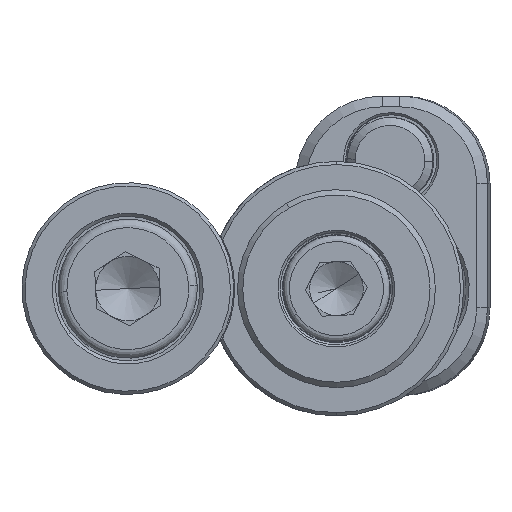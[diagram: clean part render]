
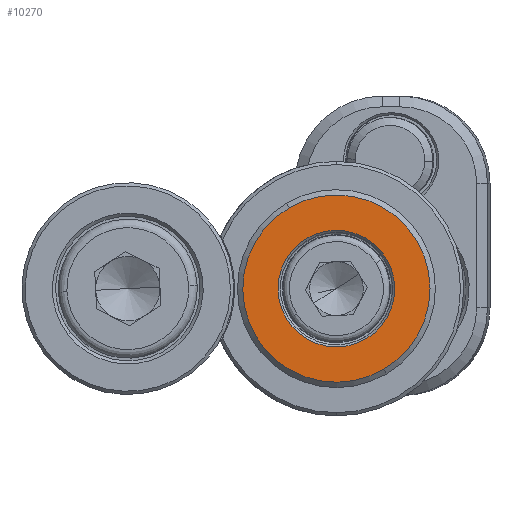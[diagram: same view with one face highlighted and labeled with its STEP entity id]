
A CAD part, front view. The second image highlights one B-rep face of the part: STEP entity #10270.
In plain terms, the highlighted planar face has unit normal (0, -1, 0).
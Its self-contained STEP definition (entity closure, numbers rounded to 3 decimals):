
#763 = DIRECTION ( 'NONE',  ( 0., 1., 0. ) ) ;
#1583 = ORIENTED_EDGE ( 'NONE', *, *, #4432, .T. ) ;
#1798 = DIRECTION ( 'NONE',  ( -0.505, 0., 0.863 ) ) ;
#1819 = VERTEX_POINT ( 'NONE', #10027 ) ;
#2292 = AXIS2_PLACEMENT_3D ( 'NONE', #9568, #4207, #4142 ) ;
#2552 = CARTESIAN_POINT ( 'NONE',  ( -4.42, -4., 7.552 ) ) ;
#2580 = FACE_OUTER_BOUND ( 'NONE', #10008, .T. ) ;
#3115 = VERTEX_POINT ( 'NONE', #10264 ) ;
#4142 = DIRECTION ( 'NONE',  ( -0.505, 0., 0.863 ) ) ;
#4207 = DIRECTION ( 'NONE',  ( 0., -1., 0. ) ) ;
#4432 = EDGE_CURVE ( 'NONE', #1819, #13284, #8508, .T. ) ;
#5392 = PLANE ( 'NONE',  #10678 ) ;
#5608 = EDGE_CURVE ( 'NONE', #13284, #1819, #9122, .T. ) ;
#5877 = FACE_BOUND ( 'NONE', #10084, .T. ) ;
#6247 = DIRECTION ( 'NONE',  ( -0.505, 0., 0.863 ) ) ;
#6370 = CIRCLE ( 'NONE', #11486, 5.45 ) ;
#6905 = CARTESIAN_POINT ( 'NONE',  ( -2.753, -4., 4.704 ) ) ;
#7456 = AXIS2_PLACEMENT_3D ( 'NONE', #13230, #9587, #6247 ) ;
#7545 = VERTEX_POINT ( 'NONE', #6905 ) ;
#7960 = DIRECTION ( 'NONE',  ( -0.505, 0., 0.863 ) ) ;
#8508 = CIRCLE ( 'NONE', #2292, 8.75 ) ;
#8618 = EDGE_CURVE ( 'NONE', #7545, #3115, #6370, .T. ) ;
#8756 = CARTESIAN_POINT ( 'NONE',  ( 0., -4., 0. ) ) ;
#9122 = CIRCLE ( 'NONE', #7456, 8.75 ) ;
#9262 = ORIENTED_EDGE ( 'NONE', *, *, #8618, .T. ) ;
#9568 = CARTESIAN_POINT ( 'NONE',  ( 0., -4., 0. ) ) ;
#9587 = DIRECTION ( 'NONE',  ( 0., -1., 0. ) ) ;
#9853 = CARTESIAN_POINT ( 'NONE',  ( -4.531, -4., -2.652 ) ) ;
#10008 = EDGE_LOOP ( 'NONE', ( #11931, #1583 ) ) ;
#10020 = DIRECTION ( 'NONE',  ( 0., 1., 0. ) ) ;
#10027 = CARTESIAN_POINT ( 'NONE',  ( 4.42, -4., -7.552 ) ) ;
#10084 = EDGE_LOOP ( 'NONE', ( #12353, #9262 ) ) ;
#10264 = CARTESIAN_POINT ( 'NONE',  ( 2.753, -4., -4.704 ) ) ;
#10270 = ADVANCED_FACE ( 'NONE', ( #5877, #2580 ), #5392, .F. ) ;
#10678 = AXIS2_PLACEMENT_3D ( 'NONE', #9853, #763, #1798 ) ;
#10814 = CIRCLE ( 'NONE', #11752, 5.45 ) ;
#11486 = AXIS2_PLACEMENT_3D ( 'NONE', #12286, #10020, #7960 ) ;
#11752 = AXIS2_PLACEMENT_3D ( 'NONE', #8756, #14262, #12980 ) ;
#11931 = ORIENTED_EDGE ( 'NONE', *, *, #5608, .T. ) ;
#12286 = CARTESIAN_POINT ( 'NONE',  ( 0., -4., 0. ) ) ;
#12353 = ORIENTED_EDGE ( 'NONE', *, *, #13743, .T. ) ;
#12980 = DIRECTION ( 'NONE',  ( -0.505, 0., 0.863 ) ) ;
#13230 = CARTESIAN_POINT ( 'NONE',  ( 0., -4., 0. ) ) ;
#13284 = VERTEX_POINT ( 'NONE', #2552 ) ;
#13743 = EDGE_CURVE ( 'NONE', #3115, #7545, #10814, .T. ) ;
#14262 = DIRECTION ( 'NONE',  ( 0., 1., 0. ) ) ;
